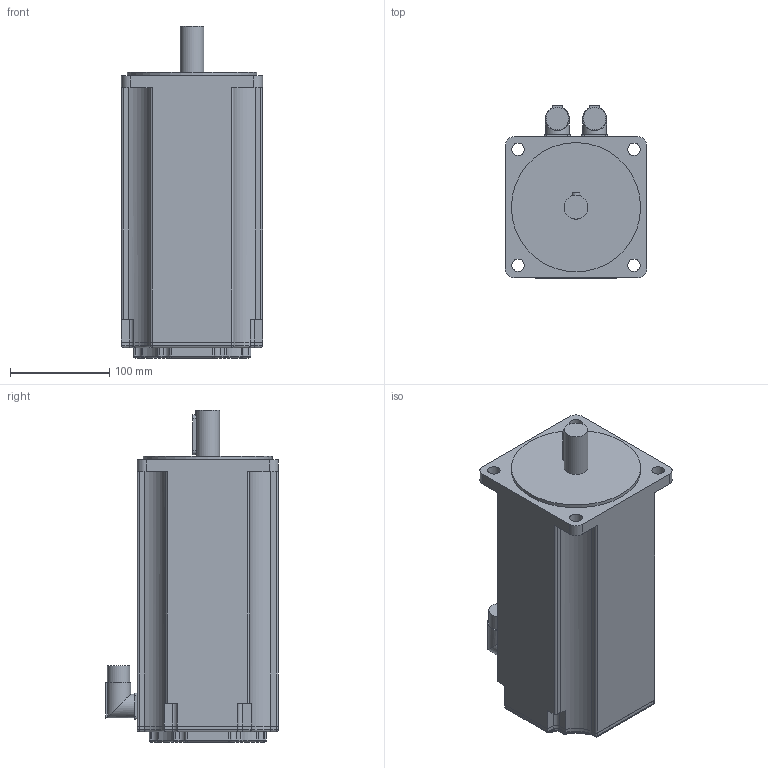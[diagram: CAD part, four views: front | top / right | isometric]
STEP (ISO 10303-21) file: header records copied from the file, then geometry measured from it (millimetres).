
FILE_DESCRIPTION(/* description */ (''),/* implementation_level */ '2;1');
FILE_NAME(/* name */ '\\Lafnas01\disegni\Archivi Lafert\3D\CAD 3D\MODELLI\Assiemi clienti\Serad\Modelli 3D Serad\B71Q\Encoder\Enc With Brake\B7120Qxx6BRx2033.ipt.stp',/* time_stamp */ '2015-09-07T10:52:18+02:00',/* author */ ('Pastrello Ylenia'),/* organization */ (''),/* preprocessor_version */ 'ST-DEVELOPER v15.6',/* originating_system */ 'Autodesk Inventor 2015',/* authorisation */ '');
FILE_SCHEMA (('CONFIG_CONTROL_DESIGN','AUTOMOTIVE_DESIGN { 1 0 10303 214 3 1 1 }'));
Length unit declared in the file: millimetre
Products named in the file (1): B7120Qxx6BRx2033
Bounding box: 142 x 173.5 x 334 mm (x, y, z)
Volume: 5002957.4 mm3; surface area: 200758.5 mm2
Topology: 1 solids, 1 shells, 251 faces, 624 edges, 386 vertices
Faces by surface type: cylinder 118, plane 93, torus 20, sphere 20
Full cylindrical faces by diameter (mm): 12.5 x4, 22.7 x2, 24 x3, 130 x1
Entity records: 7508 total; most frequent: CARTESIAN_POINT 1382, DIRECTION 1362, ORIENTED_EDGE 1220, EDGE_CURVE 610, AXIS2_PLACEMENT_3D 510, VERTEX_POINT 382, LINE 342, VECTOR 342
